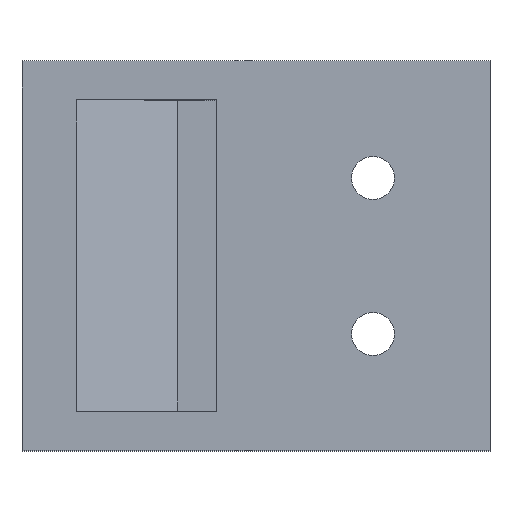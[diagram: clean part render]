
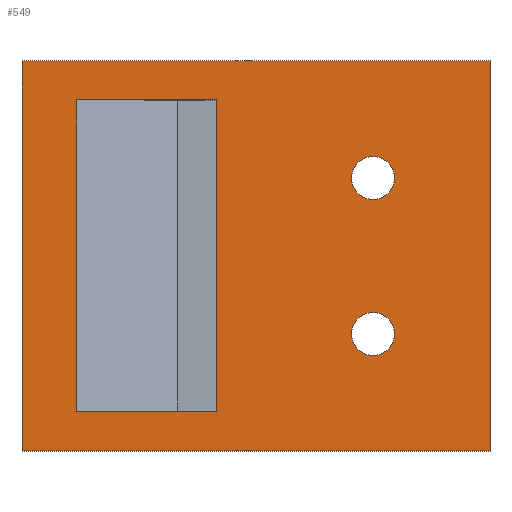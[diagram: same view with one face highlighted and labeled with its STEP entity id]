
A CAD part, top view. The second image highlights one B-rep face of the part: STEP entity #549.
In plain terms, the highlighted planar face has unit normal (0, 0, 1).
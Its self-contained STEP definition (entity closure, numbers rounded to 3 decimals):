
#2 = VERTEX_POINT ( 'NONE', #155 ) ;
#5 = VERTEX_POINT ( 'NONE', #182 ) ;
#23 = LINE ( 'NONE', #99, #447 ) ;
#38 = VECTOR ( 'NONE', #639, 1000. ) ;
#39 = EDGE_CURVE ( 'NONE', #192, #399, #86, .T. ) ;
#46 = VECTOR ( 'NONE', #103, 1000. ) ;
#47 = LINE ( 'NONE', #429, #38 ) ;
#52 = LINE ( 'NONE', #482, #46 ) ;
#61 = DIRECTION ( 'NONE',  ( 1., 0., 0. ) ) ;
#68 = AXIS2_PLACEMENT_3D ( 'NONE', #363, #364, #428 ) ;
#69 = VECTOR ( 'NONE', #510, 1000. ) ;
#71 = VECTOR ( 'NONE', #344, 1000. ) ;
#72 = CIRCLE ( 'NONE', #511, 2.75 ) ;
#76 = DIRECTION ( 'NONE',  ( 0., 0., -1. ) ) ;
#78 = DIRECTION ( 'NONE',  ( -1., 0., 0. ) ) ;
#80 = LINE ( 'NONE', #194, #69 ) ;
#81 = ORIENTED_EDGE ( 'NONE', *, *, #592, .F. ) ;
#86 = CIRCLE ( 'NONE', #68, 2.75 ) ;
#87 = EDGE_CURVE ( 'NONE', #5, #2, #494, .T. ) ;
#90 = CARTESIAN_POINT ( 'NONE',  ( -15., -10., 0. ) ) ;
#94 = VERTEX_POINT ( 'NONE', #342 ) ;
#99 = CARTESIAN_POINT ( 'NONE',  ( -53., -20., 0. ) ) ;
#101 = DIRECTION ( 'NONE',  ( 1., 0., 0. ) ) ;
#103 = DIRECTION ( 'NONE',  ( 0., -1., 0. ) ) ;
#106 = CIRCLE ( 'NONE', #210, 2.75 ) ;
#155 = CARTESIAN_POINT ( 'NONE',  ( -35., 20., 0. ) ) ;
#160 = CIRCLE ( 'NONE', #632, 2.75 ) ;
#168 = EDGE_CURVE ( 'NONE', #399, #192, #106, .T. ) ;
#172 = FACE_BOUND ( 'NONE', #451, .T. ) ;
#182 = CARTESIAN_POINT ( 'NONE',  ( -53., 20., 0. ) ) ;
#192 = VERTEX_POINT ( 'NONE', #266 ) ;
#194 = CARTESIAN_POINT ( 'NONE',  ( -53., -20., 0. ) ) ;
#198 = DIRECTION ( 'NONE',  ( 1., 0., 0. ) ) ;
#201 = LINE ( 'NONE', #258, #283 ) ;
#210 = AXIS2_PLACEMENT_3D ( 'NONE', #305, #306, #307 ) ;
#223 = EDGE_CURVE ( 'NONE', #269, #487, #201, .T. ) ;
#227 = CARTESIAN_POINT ( 'NONE',  ( -17.75, -10., 0. ) ) ;
#237 = VERTEX_POINT ( 'NONE', #278 ) ;
#238 = CARTESIAN_POINT ( 'NONE',  ( -60., -25., 0. ) ) ;
#240 = CARTESIAN_POINT ( 'NONE',  ( 0., 0., 0. ) ) ;
#258 = CARTESIAN_POINT ( 'NONE',  ( 0., 25., 0. ) ) ;
#266 = CARTESIAN_POINT ( 'NONE',  ( -17.75, 10., 0. ) ) ;
#269 = VERTEX_POINT ( 'NONE', #280 ) ;
#271 = DIRECTION ( 'NONE',  ( -1., 0., 0. ) ) ;
#278 = CARTESIAN_POINT ( 'NONE',  ( -35., -20., 0. ) ) ;
#280 = CARTESIAN_POINT ( 'NONE',  ( 0., 25., 0. ) ) ;
#283 = VECTOR ( 'NONE', #271, 1000. ) ;
#299 = VERTEX_POINT ( 'NONE', #227 ) ;
#301 = ORIENTED_EDGE ( 'NONE', *, *, #87, .T. ) ;
#305 = CARTESIAN_POINT ( 'NONE',  ( -15., 10., 0. ) ) ;
#306 = DIRECTION ( 'NONE',  ( 0., 0., -1. ) ) ;
#307 = DIRECTION ( 'NONE',  ( -1., 0., 0. ) ) ;
#328 = CARTESIAN_POINT ( 'NONE',  ( -60., -25., 0. ) ) ;
#342 = CARTESIAN_POINT ( 'NONE',  ( -12.25, -10., 0. ) ) ;
#344 = DIRECTION ( 'NONE',  ( 1., 0., 0. ) ) ;
#351 = ORIENTED_EDGE ( 'NONE', *, *, #168, .T. ) ;
#356 = ORIENTED_EDGE ( 'NONE', *, *, #615, .T. ) ;
#359 = VERTEX_POINT ( 'NONE', #328 ) ;
#363 = CARTESIAN_POINT ( 'NONE',  ( -15., 10., 0. ) ) ;
#364 = DIRECTION ( 'NONE',  ( 0., 0., -1. ) ) ;
#366 = CARTESIAN_POINT ( 'NONE',  ( -53., 20., 0. ) ) ;
#368 = FACE_OUTER_BOUND ( 'NONE', #398, .T. ) ;
#372 = VECTOR ( 'NONE', #630, 1000. ) ;
#383 = ORIENTED_EDGE ( 'NONE', *, *, #223, .T. ) ;
#390 = CARTESIAN_POINT ( 'NONE',  ( -60., 25., 0. ) ) ;
#398 = EDGE_LOOP ( 'NONE', ( #491, #477, #530, #383 ) ) ;
#399 = VERTEX_POINT ( 'NONE', #488 ) ;
#400 = FACE_BOUND ( 'NONE', #486, .T. ) ;
#406 = AXIS2_PLACEMENT_3D ( 'NONE', #240, #564, #198 ) ;
#408 = VECTOR ( 'NONE', #61, 1000. ) ;
#409 = FACE_BOUND ( 'NONE', #635, .T. ) ;
#414 = ORIENTED_EDGE ( 'NONE', *, *, #39, .T. ) ;
#416 = LINE ( 'NONE', #238, #408 ) ;
#426 = ORIENTED_EDGE ( 'NONE', *, *, #648, .F. ) ;
#427 = ORIENTED_EDGE ( 'NONE', *, *, #503, .T. ) ;
#428 = DIRECTION ( 'NONE',  ( -1., 0., 0. ) ) ;
#429 = CARTESIAN_POINT ( 'NONE',  ( 0., -25., 0. ) ) ;
#436 = EDGE_CURVE ( 'NONE', #537, #5, #80, .T. ) ;
#447 = VECTOR ( 'NONE', #101, 1000. ) ;
#451 = EDGE_LOOP ( 'NONE', ( #414, #351 ) ) ;
#454 = PLANE ( 'NONE',  #406 ) ;
#477 = ORIENTED_EDGE ( 'NONE', *, *, #540, .T. ) ;
#482 = CARTESIAN_POINT ( 'NONE',  ( -60., 25., 0. ) ) ;
#486 = EDGE_LOOP ( 'NONE', ( #427, #356 ) ) ;
#487 = VERTEX_POINT ( 'NONE', #390 ) ;
#488 = CARTESIAN_POINT ( 'NONE',  ( -12.25, 10., 0. ) ) ;
#491 = ORIENTED_EDGE ( 'NONE', *, *, #529, .T. ) ;
#494 = LINE ( 'NONE', #366, #71 ) ;
#503 = EDGE_CURVE ( 'NONE', #299, #94, #72, .T. ) ;
#510 = DIRECTION ( 'NONE',  ( 0., 1., 0. ) ) ;
#511 = AXIS2_PLACEMENT_3D ( 'NONE', #622, #542, #629 ) ;
#528 = CARTESIAN_POINT ( 'NONE',  ( -53., -20., 0. ) ) ;
#529 = EDGE_CURVE ( 'NONE', #487, #359, #52, .T. ) ;
#530 = ORIENTED_EDGE ( 'NONE', *, *, #531, .T. ) ;
#531 = EDGE_CURVE ( 'NONE', #543, #269, #47, .T. ) ;
#537 = VERTEX_POINT ( 'NONE', #528 ) ;
#540 = EDGE_CURVE ( 'NONE', #359, #543, #416, .T. ) ;
#542 = DIRECTION ( 'NONE',  ( 0., 0., -1. ) ) ;
#543 = VERTEX_POINT ( 'NONE', #559 ) ;
#549 = ADVANCED_FACE ( 'NONE', ( #172, #400, #409, #368 ), #454, .T. ) ;
#552 = ORIENTED_EDGE ( 'NONE', *, *, #436, .T. ) ;
#559 = CARTESIAN_POINT ( 'NONE',  ( 0., -25., 0. ) ) ;
#564 = DIRECTION ( 'NONE',  ( 0., 0., 1. ) ) ;
#592 = EDGE_CURVE ( 'NONE', #237, #2, #599, .T. ) ;
#599 = LINE ( 'NONE', #603, #372 ) ;
#603 = CARTESIAN_POINT ( 'NONE',  ( -35., -20., 0. ) ) ;
#615 = EDGE_CURVE ( 'NONE', #94, #299, #160, .T. ) ;
#622 = CARTESIAN_POINT ( 'NONE',  ( -15., -10., 0. ) ) ;
#629 = DIRECTION ( 'NONE',  ( -1., 0., 0. ) ) ;
#630 = DIRECTION ( 'NONE',  ( 0., 1., 0. ) ) ;
#632 = AXIS2_PLACEMENT_3D ( 'NONE', #90, #76, #78 ) ;
#635 = EDGE_LOOP ( 'NONE', ( #426, #552, #301, #81 ) ) ;
#639 = DIRECTION ( 'NONE',  ( 0., 1., 0. ) ) ;
#648 = EDGE_CURVE ( 'NONE', #537, #237, #23, .T. ) ;
